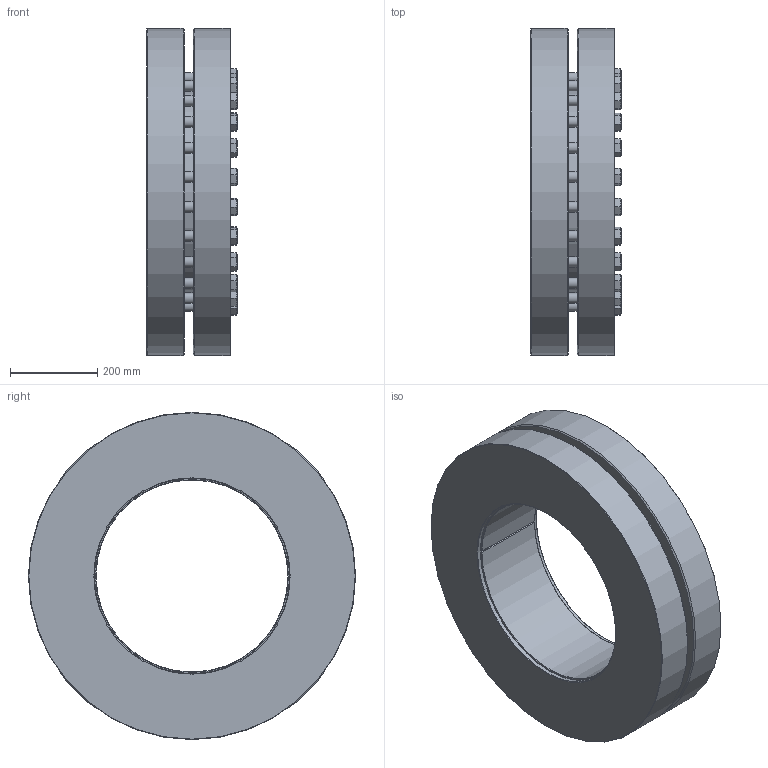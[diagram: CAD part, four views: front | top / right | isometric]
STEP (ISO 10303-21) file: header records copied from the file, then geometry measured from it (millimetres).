
FILE_DESCRIPTION( ( 'Unknown' ), '1' );
FILE_NAME( 'C:/Dokumente und Einstellungen/Sven/Desktop/KBS19 GF/KBS19 - 440 x 750.stp', 'Unknown', ( 'Unknown' ), ( 'Unknown' ), 'XStep 1.0', 'Unknown', ' ' );
FILE_SCHEMA( ( 'automotive_design' ) );
Length unit declared in the file: millimetre
Products named in the file (2): Assem1; ENG-001330
Bounding box: 207 x 750 x 750 mm (x, y, z)
Volume: 101725747 mm3; surface area: 3720821.5 mm2
Topology: 2 solids, 2 shells, 570 faces, 1476 edges, 1012 vertices
Faces by surface type: plane 400, cylinder 106, cone 56, torus 8
Full cylindrical faces by diameter (mm): 24 x48, 33.61 x48, 448 x2, 478.3 x2, 750 x4
Entity records: 15533 total; most frequent: CARTESIAN_POINT 3253, ORIENTED_EDGE 1168, DIRECTION 1150, PRESENTATION_STYLE_ASSIGNMENT 1101, COLOUR_RGB 1101, STYLED_ITEM 837, CURVE_STYLE 816, DRAUGHTING_PRE_DEFINED_CURVE_FONT 816
